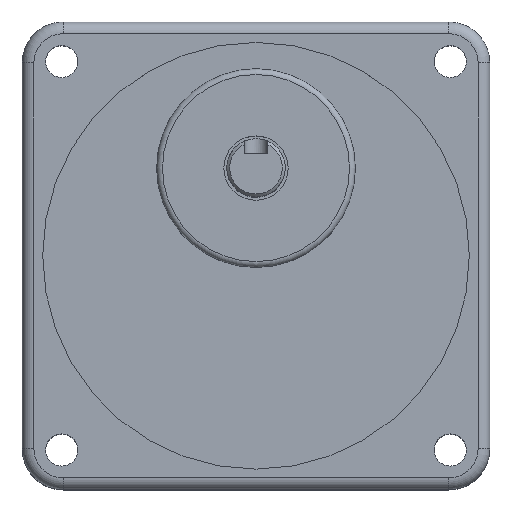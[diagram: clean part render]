
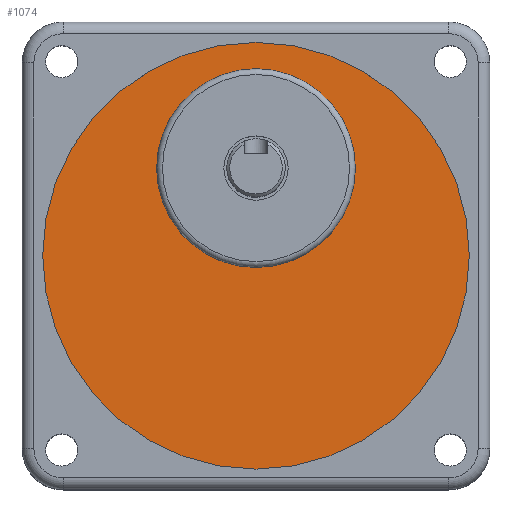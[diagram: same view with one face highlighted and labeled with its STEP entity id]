
A CAD part, top view. The second image highlights one B-rep face of the part: STEP entity #1074.
In plain terms, the highlighted planar face has unit normal (0, 0, 1).
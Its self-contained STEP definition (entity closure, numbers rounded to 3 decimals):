
#31 = VERTEX_POINT ( 'NONE', #1214 ) ;
#76 = FACE_BOUND ( 'NONE', #977, .T. ) ;
#133 = ORIENTED_EDGE ( 'NONE', *, *, #1073, .F. ) ;
#243 = DIRECTION ( 'NONE',  ( 1., 0., 0. ) ) ;
#345 = ORIENTED_EDGE ( 'NONE', *, *, #1125, .T. ) ;
#355 = CIRCLE ( 'NONE', #619, 17. ) ;
#437 = DIRECTION ( 'NONE',  ( 1., 0., 0. ) ) ;
#445 = DIRECTION ( 'NONE',  ( 0., 0., 1. ) ) ;
#548 = AXIS2_PLACEMENT_3D ( 'NONE', #605, #445, #730 ) ;
#605 = CARTESIAN_POINT ( 'NONE',  ( 0., 0., -1. ) ) ;
#619 = AXIS2_PLACEMENT_3D ( 'NONE', #1166, #703, #437 ) ;
#622 = DIRECTION ( 'NONE',  ( 0., 0., 1. ) ) ;
#638 = AXIS2_PLACEMENT_3D ( 'NONE', #910, #622, #243 ) ;
#645 = VERTEX_POINT ( 'NONE', #947 ) ;
#658 = FACE_OUTER_BOUND ( 'NONE', #1126, .T. ) ;
#703 = DIRECTION ( 'NONE',  ( 0., 0., 1. ) ) ;
#730 = DIRECTION ( 'NONE',  ( 1., 0., 0. ) ) ;
#910 = CARTESIAN_POINT ( 'NONE',  ( 0., 0., -1. ) ) ;
#947 = CARTESIAN_POINT ( 'NONE',  ( 36.5, 0., -1. ) ) ;
#977 = EDGE_LOOP ( 'NONE', ( #133 ) ) ;
#1073 = EDGE_CURVE ( 'NONE', #31, #31, #355, .T. ) ;
#1074 = ADVANCED_FACE ( 'NONE', ( #76, #658 ), #1099, .T. ) ;
#1093 = CIRCLE ( 'NONE', #638, 36.5 ) ;
#1099 = PLANE ( 'NONE',  #548 ) ;
#1125 = EDGE_CURVE ( 'NONE', #645, #645, #1093, .T. ) ;
#1126 = EDGE_LOOP ( 'NONE', ( #345 ) ) ;
#1166 = CARTESIAN_POINT ( 'NONE',  ( 0., 15., -1. ) ) ;
#1214 = CARTESIAN_POINT ( 'NONE',  ( 17., 15., -1. ) ) ;
